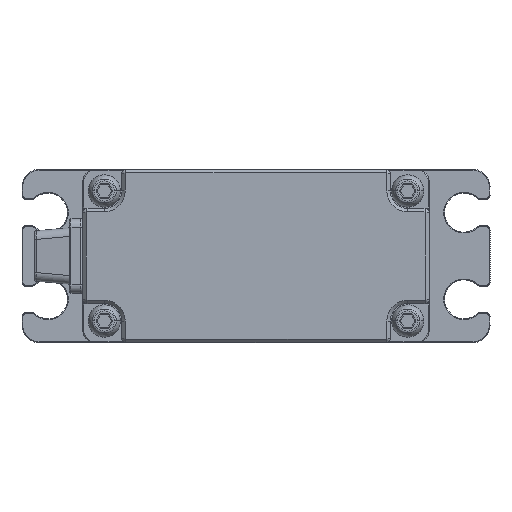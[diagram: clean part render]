
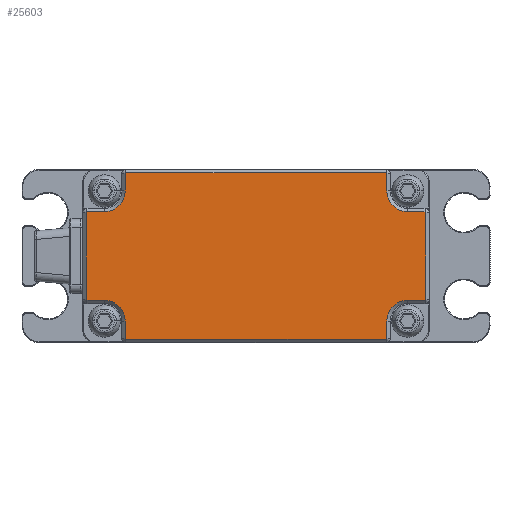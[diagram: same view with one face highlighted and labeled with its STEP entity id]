
A CAD part, front view. The second image highlights one B-rep face of the part: STEP entity #25603.
In plain terms, the highlighted planar face has unit normal (0, -1, 0).
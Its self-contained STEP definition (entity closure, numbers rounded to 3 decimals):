
#9035=DIRECTION('',(0.,0.,-1.));
#9036=VECTOR('',#9035,2.);
#9037=CARTESIAN_POINT('',(15.1,-23.3,
-7.5));
#9038=LINE('',#9037,#9036);
#9039=CARTESIAN_POINT('',(15.,-23.3,-9.5));
#9040=DIRECTION('',(0.,1.,0.));
#9041=DIRECTION('',(1.,0.,0.));
#9042=AXIS2_PLACEMENT_3D('',#9039,#9040,#9041);
#9044=DIRECTION('',(-1.,0.,0.));
#9045=VECTOR('',#9044,30.);
#9046=CARTESIAN_POINT('',(15.,-23.3,
-9.6));
#9047=LINE('',#9046,#9045);
#9048=CARTESIAN_POINT('',(-15.,-23.3,-9.5));
#9049=DIRECTION('',(0.,1.,0.));
#9050=DIRECTION('',(0.,0.,-1.));
#9051=AXIS2_PLACEMENT_3D('',#9048,#9049,#9050);
#9053=DIRECTION('',(0.,0.,1.));
#9054=VECTOR('',#9053,2.);
#9055=CARTESIAN_POINT('',(-15.1,-23.3,
-9.5));
#9056=LINE('',#9055,#9054);
#9057=CARTESIAN_POINT('',(-17.5,-23.3,-7.5));
#9058=DIRECTION('',(0.,-1.,0.));
#9059=DIRECTION('',(1.,0.,0.));
#9060=AXIS2_PLACEMENT_3D('',#9057,#9058,#9059);
#9062=DIRECTION('',(-1.,0.,0.));
#9063=VECTOR('',#9062,2.);
#9064=CARTESIAN_POINT('',(-17.5,-23.3,
-5.1));
#9065=LINE('',#9064,#9063);
#9066=CARTESIAN_POINT('',(-19.5,-23.3,-5.));
#9067=DIRECTION('',(0.,1.,0.));
#9068=DIRECTION('',(0.,0.,-1.));
#9069=AXIS2_PLACEMENT_3D('',#9066,#9067,#9068);
#9071=DIRECTION('',(0.,0.,1.));
#9072=VECTOR('',#9071,10.);
#9073=CARTESIAN_POINT('',(-19.6,-23.3,
-5.));
#9074=LINE('',#9073,#9072);
#9075=CARTESIAN_POINT('',(-19.5,-23.3,5.));
#9076=DIRECTION('',(0.,1.,0.));
#9077=DIRECTION('',(-1.,0.,0.));
#9078=AXIS2_PLACEMENT_3D('',#9075,#9076,#9077);
#9080=DIRECTION('',(1.,0.,0.));
#9081=VECTOR('',#9080,2.);
#9082=CARTESIAN_POINT('',(-19.5,-23.3,
5.1));
#9083=LINE('',#9082,#9081);
#9084=CARTESIAN_POINT('',(-17.5,-23.3,7.5));
#9085=DIRECTION('',(0.,-1.,0.));
#9086=DIRECTION('',(0.,0.,-1.));
#9087=AXIS2_PLACEMENT_3D('',#9084,#9085,#9086);
#9089=DIRECTION('',(0.,0.,1.));
#9090=VECTOR('',#9089,2.);
#9091=CARTESIAN_POINT('',(-15.1,-23.3,
7.5));
#9092=LINE('',#9091,#9090);
#9093=CARTESIAN_POINT('',(-15.,-23.3,9.5));
#9094=DIRECTION('',(0.,1.,0.));
#9095=DIRECTION('',(-1.,0.,0.));
#9096=AXIS2_PLACEMENT_3D('',#9093,#9094,#9095);
#9098=DIRECTION('',(1.,0.,0.));
#9099=VECTOR('',#9098,30.);
#9100=CARTESIAN_POINT('',(-15.,-23.3,
9.6));
#9101=LINE('',#9100,#9099);
#9102=CARTESIAN_POINT('',(15.,-23.3,9.5));
#9103=DIRECTION('',(0.,1.,0.));
#9104=DIRECTION('',(0.,0.,1.));
#9105=AXIS2_PLACEMENT_3D('',#9102,#9103,#9104);
#9107=DIRECTION('',(0.,0.,-1.));
#9108=VECTOR('',#9107,2.);
#9109=CARTESIAN_POINT('',(15.1,-23.3,9.5));
#9110=LINE('',#9109,#9108);
#9111=CARTESIAN_POINT('',(17.5,-23.3,7.5));
#9112=DIRECTION('',(0.,-1.,0.));
#9113=DIRECTION('',(-1.,0.,0.));
#9114=AXIS2_PLACEMENT_3D('',#9111,#9112,#9113);
#9116=DIRECTION('',(1.,0.,0.));
#9117=VECTOR('',#9116,2.);
#9118=CARTESIAN_POINT('',(17.5,-23.3,5.1));
#9119=LINE('',#9118,#9117);
#9120=CARTESIAN_POINT('',(19.5,-23.3,5.));
#9121=DIRECTION('',(0.,1.,0.));
#9122=DIRECTION('',(0.,0.,1.));
#9123=AXIS2_PLACEMENT_3D('',#9120,#9121,#9122);
#9125=DIRECTION('',(0.,0.,-1.));
#9126=VECTOR('',#9125,10.);
#9127=CARTESIAN_POINT('',(19.6,-23.3,5.));
#9128=LINE('',#9127,#9126);
#9129=CARTESIAN_POINT('',(19.5,-23.3,-5.));
#9130=DIRECTION('',(0.,1.,0.));
#9131=DIRECTION('',(1.,0.,0.));
#9132=AXIS2_PLACEMENT_3D('',#9129,#9130,#9131);
#9134=DIRECTION('',(-1.,0.,0.));
#9135=VECTOR('',#9134,2.);
#9136=CARTESIAN_POINT('',(19.5,-23.3,
-5.1));
#9137=LINE('',#9136,#9135);
#9138=CARTESIAN_POINT('',(17.5,-23.3,-7.5));
#9139=DIRECTION('',(0.,-1.,0.));
#9140=DIRECTION('',(0.,0.,1.));
#9141=AXIS2_PLACEMENT_3D('',#9138,#9139,#9140);
#12630=CARTESIAN_POINT('',(15.1,-23.3,
-7.5));
#12631=CARTESIAN_POINT('',(15.1,-23.3,
-9.5));
#12632=VERTEX_POINT('',#12630);
#12633=VERTEX_POINT('',#12631);
#12634=CARTESIAN_POINT('',(15.,-23.3,-9.6));
#12635=VERTEX_POINT('',#12634);
#12636=CARTESIAN_POINT('',(-15.,-23.3,
-9.6));
#12637=VERTEX_POINT('',#12636);
#12638=CARTESIAN_POINT('',(-15.1,-23.3,-9.5));
#12639=VERTEX_POINT('',#12638);
#12640=CARTESIAN_POINT('',(-15.1,-23.3,
-7.5));
#12641=VERTEX_POINT('',#12640);
#12642=CARTESIAN_POINT('',(-17.5,-23.3,-5.1));
#12643=VERTEX_POINT('',#12642);
#12644=CARTESIAN_POINT('',(-19.5,-23.3,
-5.1));
#12645=VERTEX_POINT('',#12644);
#12646=CARTESIAN_POINT('',(-19.6,-23.3,-5.));
#12647=VERTEX_POINT('',#12646);
#12648=CARTESIAN_POINT('',(-19.6,-23.3,
5.));
#12649=VERTEX_POINT('',#12648);
#12650=CARTESIAN_POINT('',(-19.5,-23.3,5.1));
#12651=VERTEX_POINT('',#12650);
#12652=CARTESIAN_POINT('',(-17.5,-23.3,
5.1));
#12653=VERTEX_POINT('',#12652);
#12654=CARTESIAN_POINT('',(-15.1,-23.3,7.5));
#12655=VERTEX_POINT('',#12654);
#12656=CARTESIAN_POINT('',(-15.1,-23.3,
9.5));
#12657=VERTEX_POINT('',#12656);
#12658=CARTESIAN_POINT('',(-15.,-23.3,9.6));
#12659=VERTEX_POINT('',#12658);
#12660=CARTESIAN_POINT('',(15.,-23.3,
9.6));
#12661=VERTEX_POINT('',#12660);
#12662=CARTESIAN_POINT('',(15.1,-23.3,9.5));
#12663=VERTEX_POINT('',#12662);
#12664=CARTESIAN_POINT('',(15.1,-23.3,
7.5));
#12665=VERTEX_POINT('',#12664);
#12666=CARTESIAN_POINT('',(17.5,-23.3,5.1));
#12667=VERTEX_POINT('',#12666);
#12668=CARTESIAN_POINT('',(19.5,-23.3,
5.1));
#12669=VERTEX_POINT('',#12668);
#12670=CARTESIAN_POINT('',(19.6,-23.3,5.));
#12671=VERTEX_POINT('',#12670);
#12672=CARTESIAN_POINT('',(19.6,-23.3,
-5.));
#12673=VERTEX_POINT('',#12672);
#12674=CARTESIAN_POINT('',(19.5,-23.3,-5.1));
#12675=VERTEX_POINT('',#12674);
#12676=CARTESIAN_POINT('',(17.5,-23.3,
-5.1));
#12677=VERTEX_POINT('',#12676);
#25549=CARTESIAN_POINT('',(0.,-23.3,0.));
#25550=DIRECTION('',(0.,1.,0.));
#25551=DIRECTION('',(1.,0.,0.));
#25552=AXIS2_PLACEMENT_3D('',#25549,#25550,#25551);
#25553=PLANE('',#25552);
#25555=ORIENTED_EDGE('',*,*,#25554,.T.);
#25557=ORIENTED_EDGE('',*,*,#25556,.T.);
#25559=ORIENTED_EDGE('',*,*,#25558,.T.);
#25561=ORIENTED_EDGE('',*,*,#25560,.T.);
#25563=ORIENTED_EDGE('',*,*,#25562,.T.);
#25565=ORIENTED_EDGE('',*,*,#25564,.T.);
#25567=ORIENTED_EDGE('',*,*,#25566,.T.);
#25569=ORIENTED_EDGE('',*,*,#25568,.T.);
#25571=ORIENTED_EDGE('',*,*,#25570,.T.);
#25573=ORIENTED_EDGE('',*,*,#25572,.T.);
#25574=ORIENTED_EDGE('',*,*,#25539,.T.);
#25576=ORIENTED_EDGE('',*,*,#25575,.T.);
#25578=ORIENTED_EDGE('',*,*,#25577,.T.);
#25580=ORIENTED_EDGE('',*,*,#25579,.T.);
#25582=ORIENTED_EDGE('',*,*,#25581,.T.);
#25584=ORIENTED_EDGE('',*,*,#25583,.T.);
#25586=ORIENTED_EDGE('',*,*,#25585,.T.);
#25588=ORIENTED_EDGE('',*,*,#25587,.T.);
#25590=ORIENTED_EDGE('',*,*,#25589,.T.);
#25592=ORIENTED_EDGE('',*,*,#25591,.T.);
#25594=ORIENTED_EDGE('',*,*,#25593,.T.);
#25596=ORIENTED_EDGE('',*,*,#25595,.T.);
#25598=ORIENTED_EDGE('',*,*,#25597,.T.);
#25600=ORIENTED_EDGE('',*,*,#25599,.T.);
#25601=EDGE_LOOP('',(#25555,#25557,#25559,#25561,#25563,#25565,#25567,#25569,
#25571,#25573,#25574,#25576,#25578,#25580,#25582,#25584,#25586,#25588,#25590,
#25592,#25594,#25596,#25598,#25600));
#25602=FACE_OUTER_BOUND('',#25601,.F.);
#9043=CIRCLE('',#9042,0.1);
#9052=CIRCLE('',#9051,0.1);
#9061=CIRCLE('',#9060,2.4);
#9070=CIRCLE('',#9069,0.1);
#9079=CIRCLE('',#9078,0.1);
#9088=CIRCLE('',#9087,2.4);
#9097=CIRCLE('',#9096,0.1);
#9106=CIRCLE('',#9105,0.1);
#9115=CIRCLE('',#9114,2.4);
#9124=CIRCLE('',#9123,0.1);
#9133=CIRCLE('',#9132,0.1);
#9142=CIRCLE('',#9141,2.4);
#25539=EDGE_CURVE('',#12651,#12653,#9083,.T.);
#25554=EDGE_CURVE('',#12632,#12633,#9038,.T.);
#25556=EDGE_CURVE('',#12633,#12635,#9043,.T.);
#25558=EDGE_CURVE('',#12635,#12637,#9047,.T.);
#25560=EDGE_CURVE('',#12637,#12639,#9052,.T.);
#25562=EDGE_CURVE('',#12639,#12641,#9056,.T.);
#25564=EDGE_CURVE('',#12641,#12643,#9061,.T.);
#25566=EDGE_CURVE('',#12643,#12645,#9065,.T.);
#25568=EDGE_CURVE('',#12645,#12647,#9070,.T.);
#25570=EDGE_CURVE('',#12647,#12649,#9074,.T.);
#25572=EDGE_CURVE('',#12649,#12651,#9079,.T.);
#25575=EDGE_CURVE('',#12653,#12655,#9088,.T.);
#25577=EDGE_CURVE('',#12655,#12657,#9092,.T.);
#25579=EDGE_CURVE('',#12657,#12659,#9097,.T.);
#25581=EDGE_CURVE('',#12659,#12661,#9101,.T.);
#25583=EDGE_CURVE('',#12661,#12663,#9106,.T.);
#25585=EDGE_CURVE('',#12663,#12665,#9110,.T.);
#25587=EDGE_CURVE('',#12665,#12667,#9115,.T.);
#25589=EDGE_CURVE('',#12667,#12669,#9119,.T.);
#25591=EDGE_CURVE('',#12669,#12671,#9124,.T.);
#25593=EDGE_CURVE('',#12671,#12673,#9128,.T.);
#25595=EDGE_CURVE('',#12673,#12675,#9133,.T.);
#25597=EDGE_CURVE('',#12675,#12677,#9137,.T.);
#25599=EDGE_CURVE('',#12677,#12632,#9142,.T.);
#25603=ADVANCED_FACE('',(#25602),#25553,.F.);
